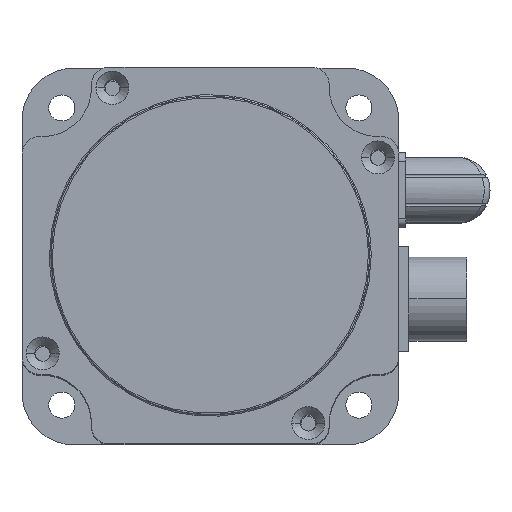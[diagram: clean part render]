
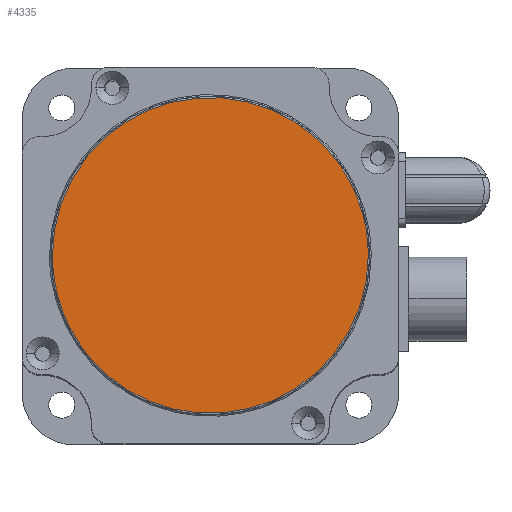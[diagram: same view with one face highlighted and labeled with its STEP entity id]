
A CAD part, top view. The second image highlights one B-rep face of the part: STEP entity #4335.
In plain terms, the highlighted planar face has unit normal (0, 0, 1).
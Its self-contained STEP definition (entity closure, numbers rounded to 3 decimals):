
#4128 = EDGE_CURVE ( 'NONE', #4146, #4206, #12372, .T. ) ;
#4146 = VERTEX_POINT ( 'NONE', #12392 ) ;
#4206 = VERTEX_POINT ( 'NONE', #12550 ) ;
#4335 = ADVANCED_FACE ( 'NONE', ( #12787 ), #12786, .F. ) ;
#4336 = EDGE_LOOP ( 'NONE', ( #4362, #4364 ) ) ;
#4362 = ORIENTED_EDGE ( 'NONE', *, *, #4363, .F. ) ;
#4363 = EDGE_CURVE ( 'NONE', #4206, #4146, #12852, .T. ) ;
#4364 = ORIENTED_EDGE ( 'NONE', *, *, #4128, .F. ) ;
#12368 = CARTESIAN_POINT ( 'NONE',  ( -29.271, -39.691, 229. ) ) ;
#12369 = CARTESIAN_POINT ( 'NONE',  ( -29.271, -148.691, 229. ) ) ;
#12370 = CARTESIAN_POINT ( 'NONE',  ( 79.729, -148.691, 229. ) ) ;
#12371 = CARTESIAN_POINT ( 'NONE',  ( 79.729, -39.691, 229. ) ) ;
#12372 =( BOUNDED_CURVE ( )  B_SPLINE_CURVE ( 3, ( #12371, #12370, #12369, #12368 ),
 .UNSPECIFIED., .F., .T. ) 
 B_SPLINE_CURVE_WITH_KNOTS ( ( 4, 4 ),
 ( 0., 1. ),
 .UNSPECIFIED. ) 
 CURVE ( )  GEOMETRIC_REPRESENTATION_ITEM ( )  RATIONAL_B_SPLINE_CURVE ( ( 1., 0.333, 0.333, 1. ) ) 
 REPRESENTATION_ITEM ( '' )  );
#12392 = CARTESIAN_POINT ( 'NONE',  ( 79.729, -39.691, 229. ) ) ;
#12550 = CARTESIAN_POINT ( 'NONE',  ( -29.271, -39.691, 229. ) ) ;
#12781 = DIRECTION ( 'NONE',  ( -1., 0., 0. ) ) ;
#12782 = DIRECTION ( 'NONE',  ( 0., 0., -1. ) ) ;
#12783 = AXIS2_PLACEMENT_3D ( 'NONE', #12785, #12782, #12781 ) ;
#12785 = CARTESIAN_POINT ( 'NONE',  ( 90.229, -104.691, 229. ) ) ;
#12786 = PLANE ( 'NONE',  #12783 ) ;
#12787 = FACE_OUTER_BOUND ( 'NONE', #4336, .T. ) ;
#12852 =( BOUNDED_CURVE ( )  B_SPLINE_CURVE ( 3, ( #12859, #12858, #12857, #12856 ),
 .UNSPECIFIED., .F., .T. ) 
 B_SPLINE_CURVE_WITH_KNOTS ( ( 4, 4 ),
 ( 0., 1. ),
 .UNSPECIFIED. ) 
 CURVE ( )  GEOMETRIC_REPRESENTATION_ITEM ( )  RATIONAL_B_SPLINE_CURVE ( ( 1., 0.333, 0.333, 1. ) ) 
 REPRESENTATION_ITEM ( '' )  );
#12856 = CARTESIAN_POINT ( 'NONE',  ( 79.729, -39.691, 229. ) ) ;
#12857 = CARTESIAN_POINT ( 'NONE',  ( 79.729, 69.309, 229. ) ) ;
#12858 = CARTESIAN_POINT ( 'NONE',  ( -29.271, 69.309, 229. ) ) ;
#12859 = CARTESIAN_POINT ( 'NONE',  ( -29.271, -39.691, 229. ) ) ;
